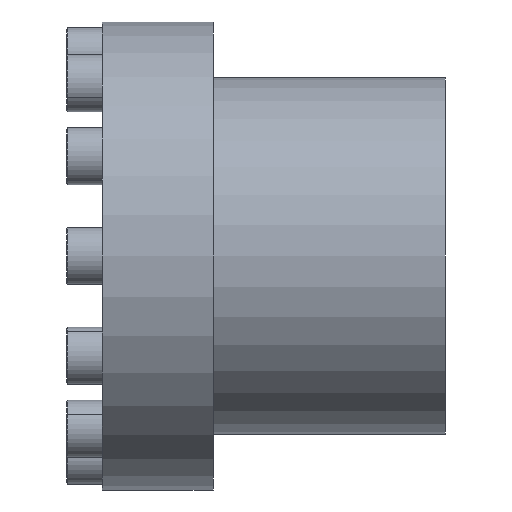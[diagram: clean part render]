
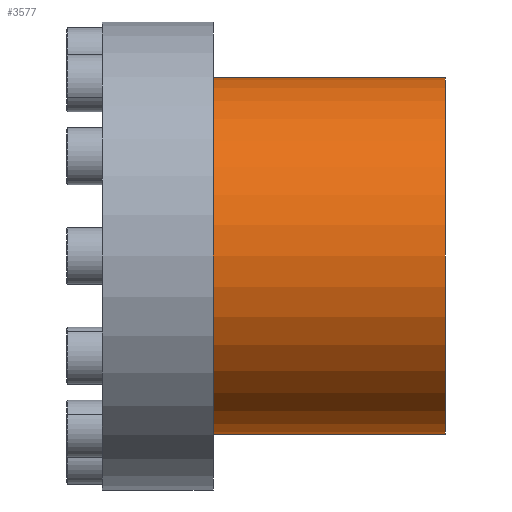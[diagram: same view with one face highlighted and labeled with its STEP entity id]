
A CAD part, front view. The second image highlights one B-rep face of the part: STEP entity #3577.
In plain terms, the highlighted cylindrical face has radius 50 mm (diameter 100 mm), a partial arc.
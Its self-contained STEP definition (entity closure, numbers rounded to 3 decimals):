
#3183 = VERTEX_POINT ( 'NONE', #6405 ) ;
#3184 = VERTEX_POINT ( 'NONE', #6404 ) ;
#3186 = EDGE_CURVE ( 'NONE', #3184, #3187, #6403, .T. ) ;
#3187 = VERTEX_POINT ( 'NONE', #6278 ) ;
#3515 = VERTEX_POINT ( 'NONE', #6777 ) ;
#3517 = EDGE_CURVE ( 'NONE', #3183, #3515, #6776, .T. ) ;
#3574 = EDGE_CURVE ( 'NONE', #3187, #3515, #7034, .T. ) ;
#3577 = ADVANCED_FACE ( 'NONE', ( #7030 ), #7029, .T. ) ;
#3579 = EDGE_LOOP ( 'NONE', ( #3581, #3583, #3585, #3586 ) ) ;
#3581 = ORIENTED_EDGE ( 'NONE', *, *, #3186, .F. ) ;
#3583 = ORIENTED_EDGE ( 'NONE', *, *, #3584, .T. ) ;
#3584 = EDGE_CURVE ( 'NONE', #3184, #3183, #7009, .T. ) ;
#3585 = ORIENTED_EDGE ( 'NONE', *, *, #3517, .T. ) ;
#3586 = ORIENTED_EDGE ( 'NONE', *, *, #3574, .F. ) ;
#6278 = CARTESIAN_POINT ( 'NONE',  ( 31., 0., -50. ) ) ;
#6279 = VECTOR ( 'NONE', #6401, 1000. ) ;
#6401 = DIRECTION ( 'NONE',  ( -1., 0., 0. ) ) ;
#6402 = CARTESIAN_POINT ( 'NONE',  ( 0., 0., -50. ) ) ;
#6403 = LINE ( 'NONE', #6402, #6279 ) ;
#6404 = CARTESIAN_POINT ( 'NONE',  ( 96., 0., -50. ) ) ;
#6405 = CARTESIAN_POINT ( 'NONE',  ( 96., 0., 50. ) ) ;
#6773 = DIRECTION ( 'NONE',  ( -1., 0., 0. ) ) ;
#6774 = VECTOR ( 'NONE', #6773, 1000. ) ;
#6775 = CARTESIAN_POINT ( 'NONE',  ( 0., 0., 50. ) ) ;
#6776 = LINE ( 'NONE', #6775, #6774 ) ;
#6777 = CARTESIAN_POINT ( 'NONE',  ( 31., 0., 50. ) ) ;
#7005 = DIRECTION ( 'NONE',  ( 0., 0., 1. ) ) ;
#7006 = DIRECTION ( 'NONE',  ( -1., 0., 0. ) ) ;
#7007 = CARTESIAN_POINT ( 'NONE',  ( 96., 0., 0. ) ) ;
#7008 = AXIS2_PLACEMENT_3D ( 'NONE', #7007, #7006, #7005 ) ;
#7009 = CIRCLE ( 'NONE', #7008, 50. ) ;
#7024 = DIRECTION ( 'NONE',  ( 0., 0., 1. ) ) ;
#7025 = DIRECTION ( 'NONE',  ( -1., 0., 0. ) ) ;
#7026 = CARTESIAN_POINT ( 'NONE',  ( 0., 0., 0. ) ) ;
#7027 = AXIS2_PLACEMENT_3D ( 'NONE', #7026, #7025, #7024 ) ;
#7029 = CYLINDRICAL_SURFACE ( 'NONE', #7027, 50. ) ;
#7030 = FACE_OUTER_BOUND ( 'NONE', #3579, .T. ) ;
#7031 = DIRECTION ( 'NONE',  ( 0., 0., 1. ) ) ;
#7032 = DIRECTION ( 'NONE',  ( -1., 0., 0. ) ) ;
#7033 = AXIS2_PLACEMENT_3D ( 'NONE', #7040, #7032, #7031 ) ;
#7034 = CIRCLE ( 'NONE', #7033, 50. ) ;
#7040 = CARTESIAN_POINT ( 'NONE',  ( 31., 0., 0. ) ) ;
